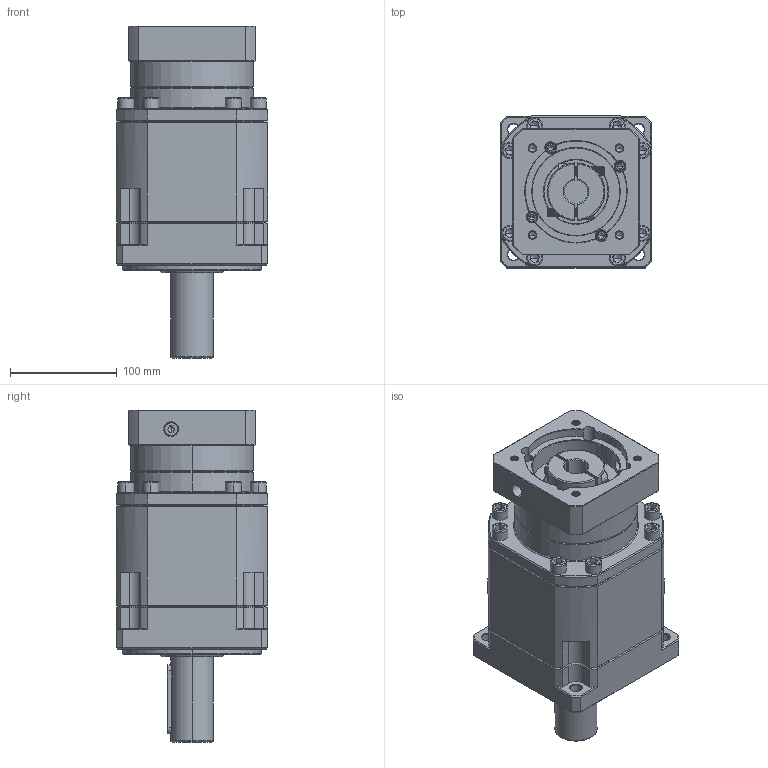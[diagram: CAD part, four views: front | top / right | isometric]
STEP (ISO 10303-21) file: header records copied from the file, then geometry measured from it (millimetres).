
FILE_DESCRIPTION (( 'STEP AP214' ), '1' );
FILE_NAME ('ZB142A-D40-L3-P2-22-95-115-M8.step', '2023-09-02T02:52:04', ( '' ), ( '' ), 'SwSTEP 2.0', 'SolidWorks 2016', '' );
FILE_SCHEMA (( 'AUTOMOTIVE_DESIGN' ));
Length unit declared in the file: millimetre
Products named in the file (1): ZB142A-D40-L3-P2-22-95-115-M8
Bounding box: 142 x 142 x 310.7 mm (x, y, z)
Volume: 3609595.7 mm3; surface area: 252515.4 mm2
Topology: 6 solids, 6 shells, 2558 faces, 6697 edges, 4261 vertices
Faces by surface type: plane 1205, cylinder 497, bspline 425, cone 393, torus 38
Entity records: 136120 total; most frequent: CARTESIAN_POINT 48480, ORIENTED_EDGE 13286, DIRECTION 10840, EDGE_CURVE 6643, VERTEX_POINT 4261, LINE 4214, VECTOR 4214, AXIS2_PLACEMENT_3D 3313
